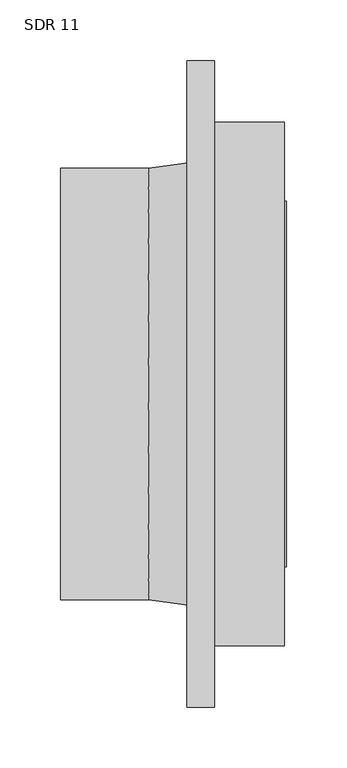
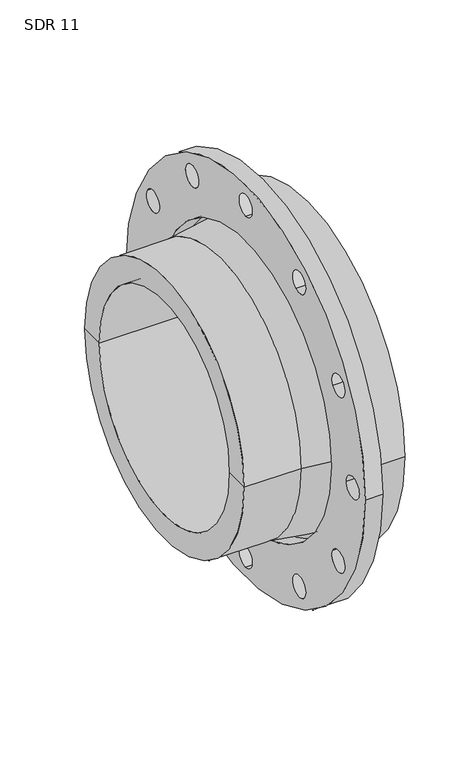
"""IFC4 building model written with IfcOpenShell, lengths in millimetres: valve geometry, Aquatherm - Flange Adapter Butt-Weld : SDR 11."""

from ifc_helpers import new_model, si_unit, point, frame, frame_2d, origin, origin_2d, place, context, project, spatial, polyline, circle_curve, trimmed, segment, composite_curve, outline, extrude, source, transform, mapped, element, save
from ifc_brep_helpers import plane_surface, cylinder_surface, revolved_surface, advanced_brep


def sdr_11_287d0a55(model_context):
    return source(origin(), model_context, "Body", "SolidModel", [
        extrude(outline(composite_curve([segment(trimmed(circle_curve(origin_2d(), 266.7), [point((-266.7, 0.0))], [point((266.7, 0.0))], False, "CARTESIAN"), True, "CONTINUOUS"), segment(trimmed(circle_curve(origin_2d(), 266.7), [point((266.7, 0.0))], [point((-266.7, 0.0))], False, "CARTESIAN"), True, "CONTINUOUS")], self_intersect=False), holes=[composite_curve([segment(trimmed(circle_curve(origin_2d(), 190.5), [point((-190.5, 0.0))], [point((190.5, 0.0))], True, "CARTESIAN"), True, "CONTINUOUS"), segment(trimmed(circle_curve(origin_2d(), 190.5), [point((190.5, 0.0))], [point((-190.5, 0.0))], True, "CARTESIAN"), True, "CONTINUOUS")], self_intersect=False), composite_curve([segment(trimmed(circle_curve(frame_2d((238.76, 0.0)), 14.351), [point((224.409, 0.0))], [point((253.111, 0.0))], True, "CARTESIAN"), True, "CONTINUOUS"), segment(trimmed(circle_curve(frame_2d((238.76, 0.0)), 14.351), [point((253.111, 0.0))], [point((224.409, 0.0))], True, "CARTESIAN"), True, "CONTINUOUS")], self_intersect=False), composite_curve([segment(trimmed(circle_curve(frame_2d((206.7722254, -119.38)), 14.351), [point((194.3438948, -112.2045))], [point((219.200556, -126.5555))], True, "CARTESIAN"), True, "CONTINUOUS"), segment(trimmed(circle_curve(frame_2d((206.7722254, -119.38)), 14.351), [point((219.200556, -126.5555))], [point((194.3438948, -112.2045))], True, "CARTESIAN"), True, "CONTINUOUS")], self_intersect=False), composite_curve([segment(trimmed(circle_curve(frame_2d((206.7722254, 119.38)), 14.351), [point((194.3438948, 112.2045))], [point((219.200556, 126.5555))], True, "CARTESIAN"), True, "CONTINUOUS"), segment(trimmed(circle_curve(frame_2d((206.7722254, 119.38)), 14.351), [point((219.200556, 126.5555))], [point((194.3438948, 112.2045))], True, "CARTESIAN"), True, "CONTINUOUS")], self_intersect=False), composite_curve([segment(trimmed(circle_curve(frame_2d((119.38, 206.7722254)), 14.351), [point((112.2045, 194.3438948))], [point((126.5555, 219.200556))], True, "CARTESIAN"), True, "CONTINUOUS"), segment(trimmed(circle_curve(frame_2d((119.38, 206.7722254)), 14.351), [point((126.5555, 219.200556))], [point((112.2045, 194.3438948))], True, "CARTESIAN"), True, "CONTINUOUS")], self_intersect=False), composite_curve([segment(trimmed(circle_curve(frame_2d((0.0, 238.76)), 14.351), [point((0.0, 224.409))], [point((0.0, 253.111))], True, "CARTESIAN"), True, "CONTINUOUS"), segment(trimmed(circle_curve(frame_2d((0.0, 238.76)), 14.351), [point((0.0, 253.111))], [point((0.0, 224.409))], True, "CARTESIAN"), True, "CONTINUOUS")], self_intersect=False), composite_curve([segment(trimmed(circle_curve(frame_2d((-119.38, 206.7722254)), 14.351), [point((-112.2045, 194.3438948))], [point((-126.5555, 219.200556))], True, "CARTESIAN"), True, "CONTINUOUS"), segment(trimmed(circle_curve(frame_2d((-119.38, 206.7722254)), 14.351), [point((-126.5555, 219.200556))], [point((-112.2045, 194.3438948))], True, "CARTESIAN"), True, "CONTINUOUS")], self_intersect=False), composite_curve([segment(trimmed(circle_curve(frame_2d((-206.7722254, 119.38)), 14.351), [point((-194.3438948, 112.2045))], [point((-219.200556, 126.5555))], True, "CARTESIAN"), True, "CONTINUOUS"), segment(trimmed(circle_curve(frame_2d((-206.7722254, 119.38)), 14.351), [point((-219.200556, 126.5555))], [point((-194.3438948, 112.2045))], True, "CARTESIAN"), True, "CONTINUOUS")], self_intersect=False), composite_curve([segment(trimmed(circle_curve(frame_2d((-238.76, 0.0)), 14.351), [point((-224.409, 0.0))], [point((-253.111, 0.0))], True, "CARTESIAN"), True, "CONTINUOUS"), segment(trimmed(circle_curve(frame_2d((-238.76, 0.0)), 14.351), [point((-253.111, 0.0))], [point((-224.409, 0.0))], True, "CARTESIAN"), True, "CONTINUOUS")], self_intersect=False), composite_curve([segment(trimmed(circle_curve(frame_2d((-206.7722254, -119.38)), 14.351), [point((-194.3438948, -112.2045))], [point((-219.200556, -126.5555))], True, "CARTESIAN"), True, "CONTINUOUS"), segment(trimmed(circle_curve(frame_2d((-206.7722254, -119.38)), 14.351), [point((-219.200556, -126.5555))], [point((-194.3438948, -112.2045))], True, "CARTESIAN"), True, "CONTINUOUS")], self_intersect=False), composite_curve([segment(trimmed(circle_curve(frame_2d((-119.38, -206.7722254)), 14.351), [point((-112.2045, -194.3438948))], [point((-126.5555, -219.200556))], True, "CARTESIAN"), True, "CONTINUOUS"), segment(trimmed(circle_curve(frame_2d((-119.38, -206.7722254)), 14.351), [point((-126.5555, -219.200556))], [point((-112.2045, -194.3438948))], True, "CARTESIAN"), True, "CONTINUOUS")], self_intersect=False), composite_curve([segment(trimmed(circle_curve(frame_2d((0.0, -238.76)), 14.351), [point((0.0, -224.409))], [point((0.0, -253.111))], True, "CARTESIAN"), True, "CONTINUOUS"), segment(trimmed(circle_curve(frame_2d((0.0, -238.76)), 14.351), [point((0.0, -253.111))], [point((0.0, -224.409))], True, "CARTESIAN"), True, "CONTINUOUS")], self_intersect=False), composite_curve([segment(trimmed(circle_curve(frame_2d((119.38, -206.7722254)), 14.351), [point((112.2045, -194.3438948))], [point((126.5555, -219.200556))], True, "CARTESIAN"), True, "CONTINUOUS"), segment(trimmed(circle_curve(frame_2d((119.38, -206.7722254)), 14.351), [point((126.5555, -219.200556))], [point((112.2045, -194.3438948))], True, "CARTESIAN"), True, "CONTINUOUS")], self_intersect=False)]), frame((-22.352, 0.0, 0.0), z_axis=(1.0, 0.0, 0.0), x_axis=(0.0, 1.0, 0.0)), (0.0, 0.0, 1.0), 22.352),
        advanced_brep(
        [(57.912, 215.9, 0.0), (57.912, -215.9, 0.0), (0.0, -215.9, 0.0), (0.0, 215.9, 0.0), (59.4995, 145.542, 0.0), (59.4995, -145.542, 0.0), (59.4995, -150.622, 0.0), (59.4995, 150.622, 0.0), (-127.0, 145.542, 0.0), (-127.0, -145.542, 0.0), (-127.0, 177.8, 0.0), (-127.0, -177.8, 0.0), (-54.102, 177.8, 0.0), (-54.102, -177.8, 0.0), (0.0, -185.42, 0.0), (0.0, 185.42, 0.0), (57.912, 150.622, 0.0), (57.912, -150.622, 0.0)],
        [
            (0, 1, circle_curve(frame((57.912, 0.0, 0.0), z_axis=(-1.0, 0.0, 0.0), x_axis=(0.0, -1.0, 0.0)), 215.9)),
            (1, 2),
            (2, 3, circle_curve(frame((0.0, 0.0, 0.0), z_axis=(1.0, 0.0, 0.0), x_axis=(0.0, -1.0, 0.0)), 215.9)),
            (3, 0),
            (1, 0, circle_curve(frame((57.912, 0.0, 0.0), z_axis=(-1.0, 0.0, 0.0), x_axis=(0.0, -1.0, 0.0)), 215.9)),
            (3, 2, circle_curve(frame((0.0, 0.0, 0.0), z_axis=(1.0, 0.0, 0.0), x_axis=(0.0, -1.0, 0.0)), 215.9)),
            (4, 5, circle_curve(frame((59.4995, 0.0, 0.0), z_axis=(-1.0, 0.0, 0.0), x_axis=(0.0, -1.0, 0.0)), 145.542)),
            (5, 6),
            (6, 7, circle_curve(frame((59.4995, 0.0, 0.0), z_axis=(1.0, 0.0, 0.0), x_axis=(0.0, -1.0, 0.0)), 150.622)),
            (7, 4),
            (5, 4, circle_curve(frame((59.4995, 0.0, 0.0), z_axis=(-1.0, 0.0, 0.0), x_axis=(0.0, -1.0, 0.0)), 145.542)),
            (7, 6, circle_curve(frame((59.4995, 0.0, 0.0), z_axis=(1.0, 0.0, 0.0), x_axis=(0.0, -1.0, 0.0)), 150.622)),
            (8, 9, circle_curve(frame((-127.0, 0.0, 0.0), z_axis=(-1.0, 0.0, 0.0), x_axis=(0.0, -1.0, 0.0)), 145.542)),
            (9, 5),
            (4, 8),
            (9, 8, circle_curve(frame((-127.0, 0.0, 0.0), z_axis=(-1.0, 0.0, 0.0), x_axis=(0.0, -1.0, 0.0)), 145.542)),
            (10, 11, circle_curve(frame((-127.0, 0.0, 0.0), z_axis=(-1.0, 0.0, 0.0), x_axis=(0.0, -1.0, 0.0)), 177.8)),
            (11, 9),
            (8, 10),
            (11, 10, circle_curve(frame((-127.0, 0.0, 0.0), z_axis=(-1.0, 0.0, 0.0), x_axis=(0.0, -1.0, 0.0)), 177.8)),
            (12, 13, circle_curve(frame((-54.102, 0.0, 0.0), z_axis=(-1.0, 0.0, 0.0), x_axis=(0.0, -1.0, 0.0)), 177.8)),
            (13, 11),
            (10, 12),
            (13, 12, circle_curve(frame((-54.102, 0.0, 0.0), z_axis=(-1.0, 0.0, 0.0), x_axis=(0.0, -1.0, 0.0)), 177.8)),
            (2, 14),
            (14, 15, circle_curve(frame((0.0, 0.0, 0.0), z_axis=(1.0, 0.0, 0.0), x_axis=(0.0, -1.0, 0.0)), 185.42)),
            (15, 3),
            (15, 14, circle_curve(frame((0.0, 0.0, 0.0), z_axis=(1.0, 0.0, 0.0), x_axis=(0.0, -1.0, 0.0)), 185.42)),
            (16, 17, circle_curve(frame((57.912, 0.0, 0.0), z_axis=(-1.0, 0.0, 0.0), x_axis=(0.0, -1.0, 0.0)), 150.622)),
            (17, 1),
            (0, 16),
            (17, 16, circle_curve(frame((57.912, 0.0, 0.0), z_axis=(-1.0, 0.0, 0.0), x_axis=(0.0, -1.0, 0.0)), 150.622)),
            (6, 17),
            (16, 7),
            (14, 13),
            (12, 15),
        ],
        [
            cylinder_surface(frame((1498.5509321, 0.0, 0.0), z_axis=(1.0, 0.0, 0.0), x_axis=(0.0, -1.0, 0.0)), 215.9),
            plane_surface(frame((59.4995, 0.0, 0.0), z_axis=(1.0, 0.0, 0.0), x_axis=(0.0, -1.0, 0.0))),
            revolved_surface(polyline([(59.4994999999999, -145.542, 0.0), (-127.0, -145.542, 0.0)]), (1498.5509321, 0.0, 0.0), (1.0, 0.0, 0.0)),
            plane_surface(frame((-127.0, 0.0, 0.0), z_axis=(-1.0, 0.0, 0.0), x_axis=(0.0, -1.0, 0.0))),
            cylinder_surface(frame((1498.5509321, 0.0, 0.0), z_axis=(1.0, 0.0, 0.0), x_axis=(0.0, -1.0, 0.0)), 177.8),
            plane_surface(frame((0.0, 0.0, 0.0), z_axis=(-1.0, 0.0, 0.0), x_axis=(0.0, -1.0, 0.0))),
            plane_surface(frame((57.912, 0.0, 0.0), z_axis=(1.0, 0.0, 0.0), x_axis=(0.0, -1.0, 0.0))),
            cylinder_surface(frame((1498.5509321, 0.0, 0.0), z_axis=(1.0, 0.0, 0.0), x_axis=(0.0, -1.0, 0.0)), 150.622),
            revolved_surface(polyline([(-54.102, -177.8, 0.0), (0.0, -185.42, 0.0)]), (1498.5509321, 0.0, 0.0), (1.0, 0.0, 0.0)),
        ],
        [
            (0, [[1, 2, 3, 4]]),
            (0, [[5, -4, 6, -2]]),
            (1, [[7, 8, 9, 10]]),
            (1, [[11, -10, 12, -8]]),
            (2, [[13, 14, -7, 15]]),
            (2, [[16, -15, -11, -14]]),
            (3, [[17, 18, -13, 19]]),
            (3, [[20, -19, -16, -18]]),
            (4, [[21, 22, -17, 23]]),
            (4, [[24, -23, -20, -22]]),
            (5, [[-3, 25, 26, 27]]),
            (5, [[-6, -27, 28, -25]]),
            (6, [[29, 30, -1, 31]]),
            (6, [[32, -31, -5, -30]]),
            (7, [[-9, 33, -29, 34]]),
            (7, [[-12, -34, -32, -33]]),
            (8, [[-26, 35, -21, 36]]),
            (8, [[-28, -36, -24, -35]]),
        ],
    ),
    ])


if __name__ == "__main__":
    model = new_model("IFC4")
    model_context = context("Model", 3, world=origin())
    ifc_project = project(units=[si_unit("LENGTHUNIT", "METRE", prefix="MILLI")], contexts=[model_context])
    site = spatial("IfcSite", under=ifc_project)
    building = spatial("IfcBuilding", under=site)
    placement = place(None, origin())
    sdr_11_shape = sdr_11_287d0a55(model_context)
    element("IfcValve", 1, ObjectType="Aquatherm - Flange Adapter Butt-Weld : SDR 11", at=placement, inside=building, context=model_context, shape_type="MappedRepresentation", body=[
        mapped(sdr_11_shape, transform((0.0, 0.0, 0.0), x_axis=(1.0, 0.0, 0.0), y_axis=(0.0, 1.0, 0.0), z_axis=(0.0, 0.0, 1.0))),
    ])
    save(model, "model.ifc")
